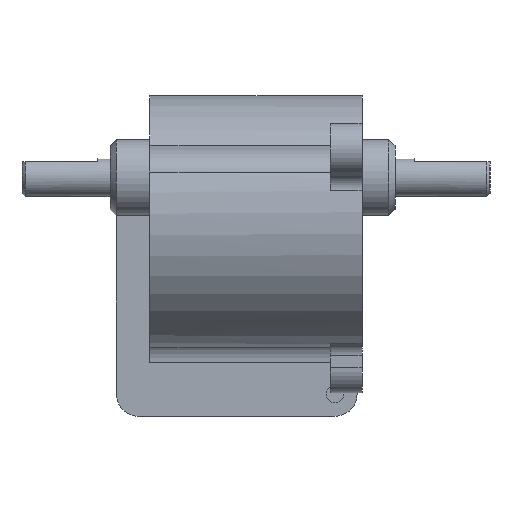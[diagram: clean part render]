
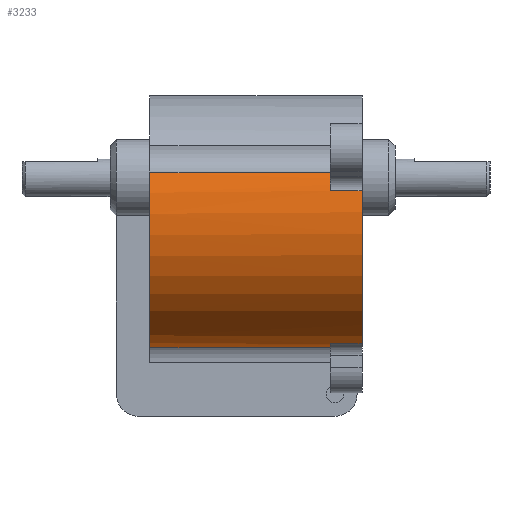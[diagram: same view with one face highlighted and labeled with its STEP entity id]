
A CAD part, left-side view. The second image highlights one B-rep face of the part: STEP entity #3233.
In plain terms, the highlighted cylindrical face has radius 20 mm (diameter 40 mm), a partial arc.
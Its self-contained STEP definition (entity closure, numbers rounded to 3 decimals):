
#198=CYLINDRICAL_SURFACE('',#3552,20.);
#277=FACE_OUTER_BOUND('',#480,.T.);
#480=EDGE_LOOP('',(#2248,#2249,#2250,#2251,#2252,#2253,#2254,#2255));
#736=CIRCLE('',#3553,20.);
#737=CIRCLE('',#3554,20.);
#738=CIRCLE('',#3555,20.);
#739=CIRCLE('',#3556,20.);
#907=LINE('',#5021,#1185);
#909=LINE('',#5029,#1187);
#910=LINE('',#5033,#1188);
#911=LINE('',#5037,#1189);
#1185=VECTOR('',#3970,10.);
#1187=VECTOR('',#3978,10.);
#1188=VECTOR('',#3981,10.);
#1189=VECTOR('',#3984,10.);
#1474=VERTEX_POINT('',#5018);
#1475=VERTEX_POINT('',#5020);
#1477=VERTEX_POINT('',#5026);
#1478=VERTEX_POINT('',#5028);
#1479=VERTEX_POINT('',#5030);
#1480=VERTEX_POINT('',#5032);
#1481=VERTEX_POINT('',#5034);
#1482=VERTEX_POINT('',#5036);
#1776=EDGE_CURVE('',#1474,#1475,#907,.T.);
#1779=EDGE_CURVE('',#1474,#1477,#736,.T.);
#1780=EDGE_CURVE('',#1477,#1478,#909,.T.);
#1781=EDGE_CURVE('',#1478,#1479,#737,.T.);
#1782=EDGE_CURVE('',#1479,#1480,#910,.T.);
#1783=EDGE_CURVE('',#1480,#1481,#738,.T.);
#1784=EDGE_CURVE('',#1482,#1481,#911,.T.);
#1785=EDGE_CURVE('',#1475,#1482,#739,.T.);
#2248=ORIENTED_EDGE('',*,*,#1776,.F.);
#2249=ORIENTED_EDGE('',*,*,#1779,.T.);
#2250=ORIENTED_EDGE('',*,*,#1780,.T.);
#2251=ORIENTED_EDGE('',*,*,#1781,.T.);
#2252=ORIENTED_EDGE('',*,*,#1782,.T.);
#2253=ORIENTED_EDGE('',*,*,#1783,.T.);
#2254=ORIENTED_EDGE('',*,*,#1784,.F.);
#2255=ORIENTED_EDGE('',*,*,#1785,.F.);
#3233=ADVANCED_FACE('',(#277),#198,.T.);
#3552=AXIS2_PLACEMENT_3D('',#5025,#3974,#3975);
#3553=AXIS2_PLACEMENT_3D('',#5027,#3976,#3977);
#3554=AXIS2_PLACEMENT_3D('',#5031,#3979,#3980);
#3555=AXIS2_PLACEMENT_3D('',#5035,#3982,#3983);
#3556=AXIS2_PLACEMENT_3D('',#5038,#3985,#3986);
#3970=DIRECTION('',(0.,-1.,0.));
#3974=DIRECTION('center_axis',(0.,1.,0.));
#3975=DIRECTION('ref_axis',(-0.866,0.,-0.5));
#3976=DIRECTION('center_axis',(0.,1.,0.));
#3977=DIRECTION('ref_axis',(1.,0.,0.));
#3978=DIRECTION('',(0.,1.,0.));
#3979=DIRECTION('center_axis',(0.,-1.,0.));
#3980=DIRECTION('ref_axis',(1.,0.,0.));
#3981=DIRECTION('',(0.,-1.,0.));
#3982=DIRECTION('center_axis',(0.,1.,0.));
#3983=DIRECTION('ref_axis',(1.,0.,0.));
#3984=DIRECTION('',(0.,1.,0.));
#3985=DIRECTION('center_axis',(0.,-1.,0.));
#3986=DIRECTION('ref_axis',(1.,0.,0.));
#5018=CARTESIAN_POINT('',(-19.391,5.,4.897));
#5020=CARTESIAN_POINT('',(-19.391,0.,4.897));
#5021=CARTESIAN_POINT('',(-19.391,0.,4.897));
#5025=CARTESIAN_POINT('Origin',(0.,0.,0.));
#5026=CARTESIAN_POINT('',(-18.42,5.,7.791));
#5027=CARTESIAN_POINT('Origin',(0.,5.,0.));
#5028=CARTESIAN_POINT('',(-18.42,33.5,7.791));
#5029=CARTESIAN_POINT('',(-18.42,33.5,7.791));
#5030=CARTESIAN_POINT('',(-2.462,33.5,-19.848));
#5031=CARTESIAN_POINT('Origin',(0.,33.5,0.));
#5032=CARTESIAN_POINT('',(-2.462,5.,-19.848));
#5033=CARTESIAN_POINT('',(-2.462,33.5,-19.848));
#5034=CARTESIAN_POINT('',(-5.455,5.,-19.242));
#5035=CARTESIAN_POINT('Origin',(0.,5.,0.));
#5036=CARTESIAN_POINT('',(-5.455,0.,-19.242));
#5037=CARTESIAN_POINT('',(-5.455,0.,-19.242));
#5038=CARTESIAN_POINT('Origin',(0.,0.,0.));
